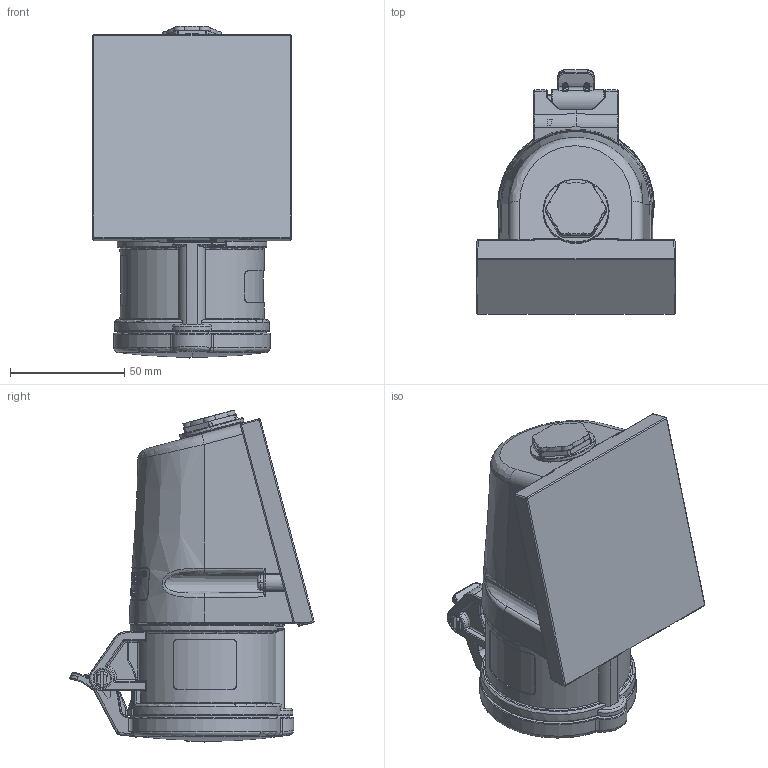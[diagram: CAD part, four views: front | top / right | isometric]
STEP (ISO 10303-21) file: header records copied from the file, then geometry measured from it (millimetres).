
FILE_DESCRIPTION((''),'2;1');
FILE_NAME('1113715_ASM_SW0001','2018-04-17T',('gisse'),('MENNEKES'),'PRO/ENGINEER BY PARAMETRIC TECHNOLOGY CORPORATION, 2015440','PRO/ENGINEER BY PARAMETRIC TECHNOLOGY CORPORATION, 2015440','');
FILE_SCHEMA(('AUTOMOTIVE_DESIGN { 1 0 10303 214 1 1 1 1 }'));
Products named in the file (1): 1113715_ASM_SW0001
Bounding box: 86.98 x 107.01 x 145.36 mm (x, y, z)
Volume: 521121.3 mm3; surface area: 53242 mm2
Topology: 1 solids, 1 shells, 1489 faces, 3876 edges, 2424 vertices
Faces by surface type: plane 418, cylinder 384, extrusion 250, bspline 234, torus 108, cone 61, sphere 30, revolution 4
Entity records: 92964 total; most frequent: CARTESIAN_POINT 29265, ORIENTED_EDGE 7724, PRESENTATION_STYLE_ASSIGNMENT 5601, DIRECTION 5593, STYLED_ITEM 4117, CURVE_STYLE 4116, EDGE_CURVE 3862, FILL_AREA_STYLE_COLOUR 2969
